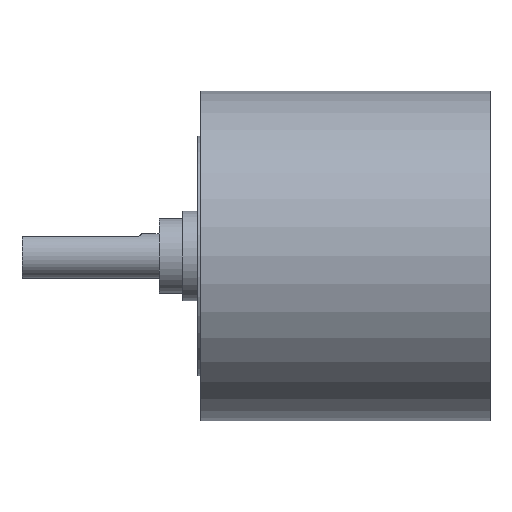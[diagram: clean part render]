
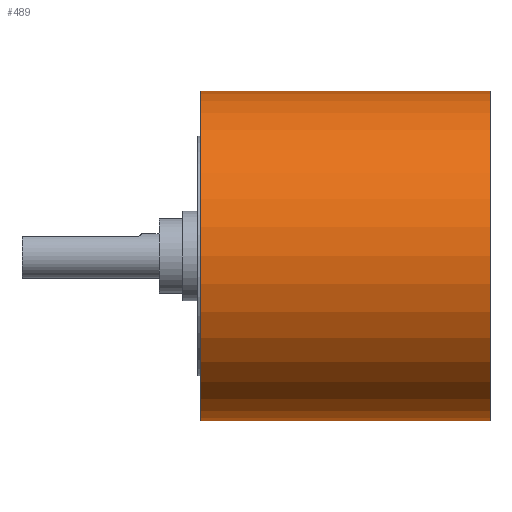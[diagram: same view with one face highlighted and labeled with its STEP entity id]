
A CAD part, top view. The second image highlights one B-rep face of the part: STEP entity #489.
In plain terms, the highlighted cylindrical face has radius 11 mm (diameter 22 mm), a partial arc.
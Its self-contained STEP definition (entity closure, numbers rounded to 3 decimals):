
#82=DIRECTION('',(-1.,0.,0.));
#83=VECTOR('',#82,19.3);
#84=CARTESIAN_POINT('',(-5.5,11.,0.));
#85=LINE('',#84,#83);
#86=CARTESIAN_POINT('',(-5.5,0.,0.));
#87=DIRECTION('',(1.,0.,0.));
#88=DIRECTION('',(0.,1.,0.));
#89=AXIS2_PLACEMENT_3D('',#86,#87,#88);
#91=DIRECTION('',(-1.,0.,0.));
#92=VECTOR('',#91,19.3);
#93=CARTESIAN_POINT('',(-5.5,-11.,0.));
#94=LINE('',#93,#92);
#95=CARTESIAN_POINT('',(-24.8,0.,0.));
#96=DIRECTION('',(1.,0.,0.));
#97=DIRECTION('',(0.,1.,0.));
#98=AXIS2_PLACEMENT_3D('',#95,#96,#97);
#420=CARTESIAN_POINT('',(-24.8,11.,0.));
#421=CARTESIAN_POINT('',(-24.8,-11.,0.));
#422=VERTEX_POINT('',#420);
#423=VERTEX_POINT('',#421);
#440=CARTESIAN_POINT('',(-5.5,11.,0.));
#441=CARTESIAN_POINT('',(-5.5,-11.,0.));
#442=VERTEX_POINT('',#440);
#443=VERTEX_POINT('',#441);
#477=CARTESIAN_POINT('',(1.838,0.,0.));
#478=DIRECTION('',(-1.,0.,0.));
#479=DIRECTION('',(0.,1.,0.));
#480=AXIS2_PLACEMENT_3D('',#477,#478,#479);
#481=CYLINDRICAL_SURFACE('',#480,11.);
#482=ORIENTED_EDGE('',*,*,#467,.F.);
#483=ORIENTED_EDGE('',*,*,#451,.T.);
#484=ORIENTED_EDGE('',*,*,#471,.T.);
#486=ORIENTED_EDGE('',*,*,#485,.F.);
#487=EDGE_LOOP('',(#482,#483,#484,#486));
#488=FACE_OUTER_BOUND('',#487,.F.);
#489=ADVANCED_FACE('',(#488),#481,.T.);
#90=CIRCLE('',#89,11.);
#99=CIRCLE('',#98,11.);
#451=EDGE_CURVE('',#442,#443,#90,.T.);
#467=EDGE_CURVE('',#442,#422,#85,.T.);
#471=EDGE_CURVE('',#443,#423,#94,.T.);
#485=EDGE_CURVE('',#422,#423,#99,.T.);
